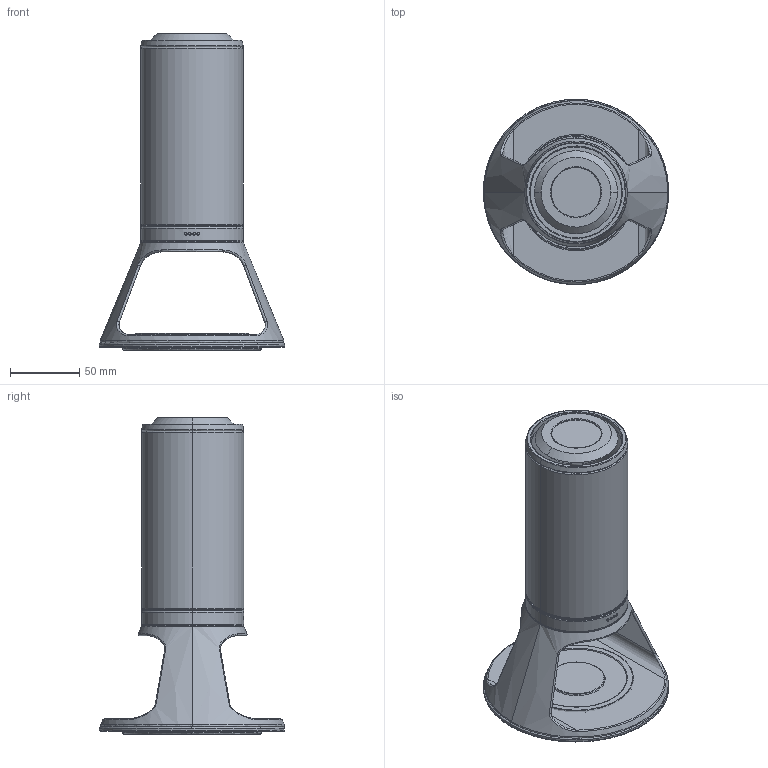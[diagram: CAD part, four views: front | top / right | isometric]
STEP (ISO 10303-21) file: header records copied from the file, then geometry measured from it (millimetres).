
FILE_DESCRIPTION(/* description */ (''),/* implementation_level */ '2;1');
FILE_NAME(/* name */ '아로마충전기',/* time_stamp */ '2015-10-27T13:55:05+09:00',/* author */ (''),/* organization */ (''),/* preprocessor_version */ 'ST-DEVELOPER v15',/* originating_system */ '',/* authorisation */ '');
FILE_SCHEMA (('AUTOMOTIVE_DESIGN'));
Length unit declared in the file: millimetre
Products named in the file (1): Document
Bounding box: 134 x 133.79 x 228.79 mm (x, y, z)
Volume: 385451 mm3; surface area: 193649.9 mm2
Topology: 10 solids, 14 shells, 169 faces, 360 edges, 219 vertices
Faces by surface type: bspline 132, plane 37
Entity records: 11443 total; most frequent: CARTESIAN_POINT 9242, ORIENTED_EDGE 704, EDGE_CURVE 358, VERTEX_POINT 216, EDGE_LOOP 185, ADVANCED_FACE 169, FACE_OUTER_BOUND 169, B_SPLINE_CURVE_WITH_KNOTS 103
